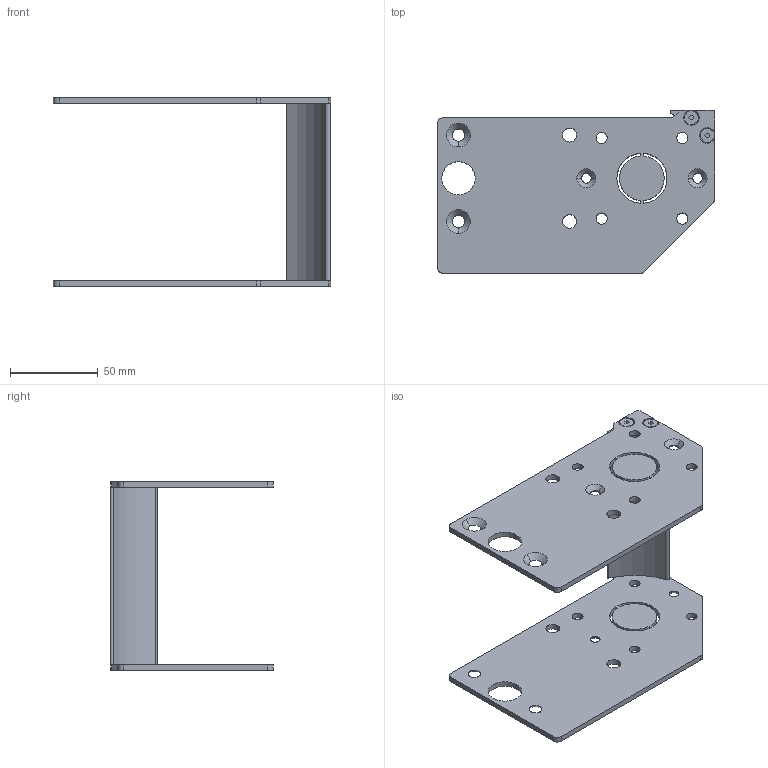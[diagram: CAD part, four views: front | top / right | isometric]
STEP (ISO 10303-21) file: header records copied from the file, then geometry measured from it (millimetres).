
FILE_DESCRIPTION((''),'2;1');
FILE_NAME('27M3300-10_ASM','2017-04-11T',('jenni.wallner'),(''),'PRO/ENGINEER BY PARAMETRIC TECHNOLOGY CORPORATION, 2012420','PRO/ENGINEER BY PARAMETRIC TECHNOLOGY CORPORATION, 2012420','');
FILE_SCHEMA(('CONFIG_CONTROL_DESIGN'));
Length unit declared in the file: inch
Products named in the file (5): 350539-04; 350540; 350541; 930410M; 27M3300-10_ASM
Assembly tree (7 placements, depth 2):
  27M3300-10_ASM
    350539-04
    350540
    350541
    930410M  x4
Bounding box: 157.96 x 92.74 x 107.59 mm (x, y, z)
Volume: 107157.6 mm3; surface area: 68557.7 mm2
Topology: 7 solids, 11 shells, 206 faces, 540 edges, 352 vertices
Faces by surface type: cylinder 96, plane 70, cone 40
Entity records: 5328 total; most frequent: DIRECTION 972, CARTESIAN_POINT 907, ORIENTED_EDGE 836, EDGE_CURVE 426, AXIS2_PLACEMENT_3D 383, VERTEX_POINT 280, EDGE_LOOP 220, CIRCLE 214
